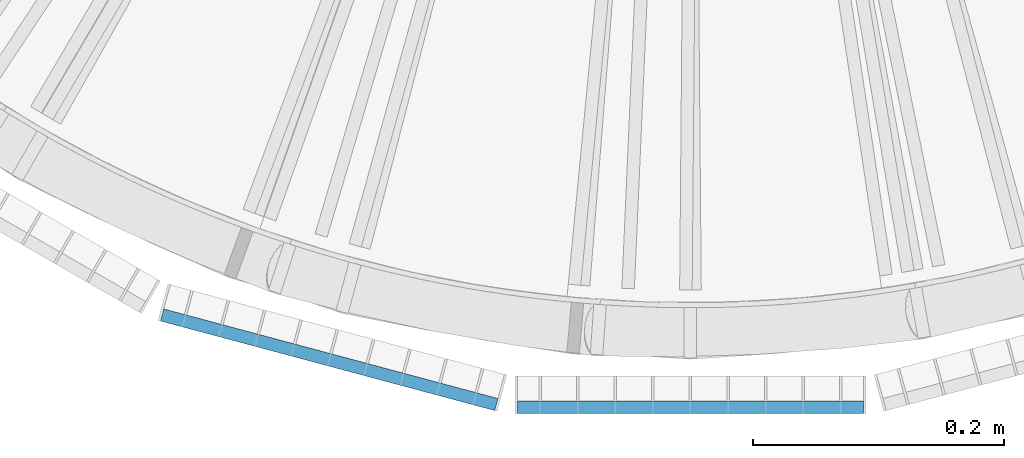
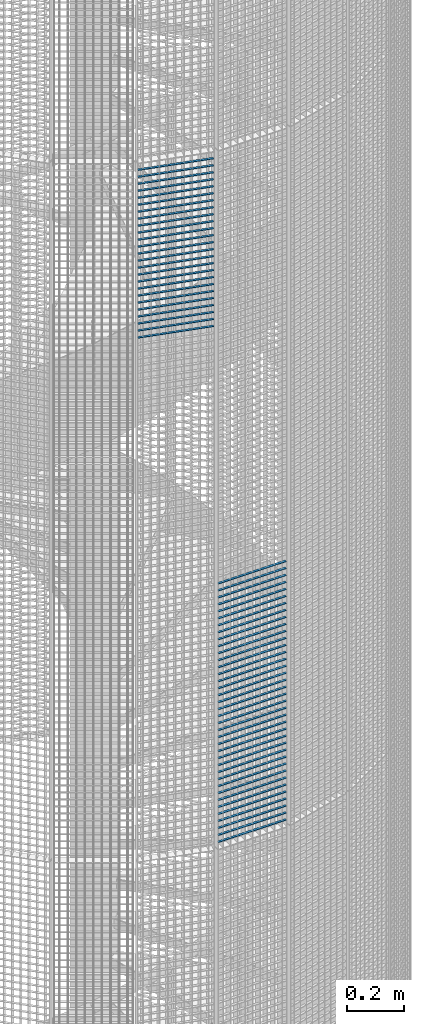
# One storey, part 162 of 1148: 63 beams, 2 elements without a shape of their own.
"""IFC2X3 building model written with IfcOpenShell, lengths in millimetres."""

from ifc_helpers import new_model, si_unit, frame, origin_with_axes, origin_2d_with_axis, place, context, subcontext, project, spatial, rectangle, extrude, material, type_object, element, aggregate, save


model = new_model("IFC2X3")

# Units and contexts
model_context = context("Model", 3, precision=1e-05, world=origin_with_axes())
body_context = subcontext(model_context, "Body", "Model", "MODEL_VIEW")
ifc_project = project(units=[si_unit("LENGTHUNIT", "METRE", prefix="MILLI"), si_unit("AREAUNIT", "SQUARE_METRE"), si_unit("VOLUMEUNIT", "CUBIC_METRE"), si_unit("MASSUNIT", "GRAM", prefix="KILO"), si_unit("TIMEUNIT", "SECOND"), si_unit("PLANEANGLEUNIT", "RADIAN"), si_unit("SOLIDANGLEUNIT", "STERADIAN"), si_unit("THERMODYNAMICTEMPERATUREUNIT", "DEGREE_CELSIUS"), si_unit("LUMINOUSINTENSITYUNIT", "LUMEN")], contexts=[model_context])

# Site, building, storey
site_placement = place(None, origin_with_axes())
site = spatial("IfcSite", under=ifc_project, at=site_placement, Name="Undefined", CompositionType="ELEMENT")
building_placement = place(site_placement, origin_with_axes())
building = spatial("IfcBuilding", under=site, at=building_placement, Name="Undefined", CompositionType="ELEMENT")
storey_placement = place(building_placement, origin_with_axes())
storey = spatial("IfcBuildingStorey", under=building, at=storey_placement, Name="Undefined", CompositionType="ELEMENT", Elevation=0.0)

# Assembly, beams
assembly_1_placement = place(storey_placement, origin_with_axes())
assembly_1 = element("IfcElementAssembly", 1, at=assembly_1_placement, inside=storey, Name="BORDURE", AssemblyPlace="NOTDEFINED", PredefinedType="NOTDEFINED")
ifc_material = material(Name="STEEL/S235JR")
beam_type = type_object("IfcBeamType", Name="PL2*10", PredefinedType="NOTDEFINED")
beam_1_placement = place(assembly_1_placement, frame((-137.996003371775, -1113.47999999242, 4140.0), z_axis=(0.0, -1.0, 0.0), x_axis=(1.0, 0.0, 0.0)))
beam_1 = element("IfcBeam", 2, at=beam_1_placement, type_object=beam_type, material=ifc_material, Name="ENTRETOISE", context=body_context, shape_type="SweptSolid", body=[
    extrude(rectangle(XDim=2.0, YDim=10.0, at=origin_2d_with_axis()), frame((275.999999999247, 9.09494701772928e-13, 1.53210777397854e-14), z_axis=(-1.0, 0.0, 0.0), x_axis=(0.0, -1.0, 0.0)), (0.0, 0.0, 1.0), 276.0),
])
beam_2_placement = place(assembly_1_placement, frame((-137.996003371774, -1113.47999999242, 3720.0), z_axis=(0.0, -1.0, 0.0), x_axis=(1.0, 0.0, 0.0)))
beam_2 = element("IfcBeam", 3, at=beam_2_placement, type_object=beam_type, material=ifc_material, Name="ENTRETOISE", context=body_context, shape_type="SweptSolid", body=[
    extrude(rectangle(XDim=2.0, YDim=10.0, at=origin_2d_with_axis()), frame((275.999999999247, 9.09494701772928e-13, 1.53210777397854e-14), z_axis=(-1.0, 0.0, 0.0), x_axis=(0.0, -1.0, 0.0)), (0.0, 0.0, 1.0), 276.0),
])
beam_3_placement = place(assembly_1_placement, frame((-137.996003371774, -1113.47999999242, 3690.0), z_axis=(0.0, -1.0, 0.0), x_axis=(1.0, 0.0, 0.0)))
beam_3 = element("IfcBeam", 4, at=beam_3_placement, type_object=beam_type, material=ifc_material, Name="ENTRETOISE", context=body_context, shape_type="SweptSolid", body=[
    extrude(rectangle(XDim=2.0, YDim=10.0, at=origin_2d_with_axis()), frame((275.999999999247, 9.09494701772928e-13, 1.53210777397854e-14), z_axis=(-1.0, 0.0, 0.0), x_axis=(0.0, -1.0, 0.0)), (0.0, 0.0, 1.0), 276.0),
])
beam_4_placement = place(assembly_1_placement, frame((-137.996003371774, -1113.47999999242, 3750.0), z_axis=(0.0, -1.0, 0.0), x_axis=(1.0, 0.0, 0.0)))
beam_4 = element("IfcBeam", 5, at=beam_4_placement, type_object=beam_type, material=ifc_material, Name="ENTRETOISE", context=body_context, shape_type="SweptSolid", body=[
    extrude(rectangle(XDim=2.0, YDim=10.0, at=origin_2d_with_axis()), frame((275.999999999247, 9.09494701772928e-13, 1.53210777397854e-14), z_axis=(-1.0, 0.0, 0.0), x_axis=(0.0, -1.0, 0.0)), (0.0, 0.0, 1.0), 276.0),
])
beam_5_placement = place(assembly_1_placement, frame((-137.996003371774, -1113.47999999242, 3660.0), z_axis=(0.0, -1.0, 0.0), x_axis=(1.0, 0.0, 0.0)))
beam_5 = element("IfcBeam", 6, at=beam_5_placement, type_object=beam_type, material=ifc_material, Name="ENTRETOISE", context=body_context, shape_type="SweptSolid", body=[
    extrude(rectangle(XDim=2.0, YDim=10.0, at=origin_2d_with_axis()), frame((275.999999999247, 9.09494701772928e-13, 1.53210777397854e-14), z_axis=(-1.0, 0.0, 0.0), x_axis=(0.0, -1.0, 0.0)), (0.0, 0.0, 1.0), 276.0),
])
beam_6_placement = place(assembly_1_placement, frame((-137.996003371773, -1113.47999999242, 3630.0), z_axis=(0.0, -1.0, 0.0), x_axis=(1.0, 0.0, 0.0)))
beam_6 = element("IfcBeam", 7, at=beam_6_placement, type_object=beam_type, material=ifc_material, Name="ENTRETOISE", context=body_context, shape_type="SweptSolid", body=[
    extrude(rectangle(XDim=2.0, YDim=10.0, at=origin_2d_with_axis()), frame((275.999999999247, 9.09494701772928e-13, 1.53210777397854e-14), z_axis=(-1.0, 0.0, 0.0), x_axis=(0.0, -1.0, 0.0)), (0.0, 0.0, 1.0), 276.0),
])
beam_7_placement = place(assembly_1_placement, frame((-137.996003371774, -1113.47999999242, 3780.0), z_axis=(0.0, -1.0, 0.0), x_axis=(1.0, 0.0, 0.0)))
beam_7 = element("IfcBeam", 8, at=beam_7_placement, type_object=beam_type, material=ifc_material, Name="ENTRETOISE", context=body_context, shape_type="SweptSolid", body=[
    extrude(rectangle(XDim=2.0, YDim=10.0, at=origin_2d_with_axis()), frame((275.999999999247, 9.09494701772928e-13, 1.53210777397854e-14), z_axis=(-1.0, 0.0, 0.0), x_axis=(0.0, -1.0, 0.0)), (0.0, 0.0, 1.0), 276.0),
])
beam_8_placement = place(assembly_1_placement, frame((-137.996003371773, -1113.47999999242, 3600.0), z_axis=(0.0, -1.0, 0.0), x_axis=(1.0, 0.0, 0.0)))
beam_8 = element("IfcBeam", 9, at=beam_8_placement, type_object=beam_type, material=ifc_material, Name="ENTRETOISE", context=body_context, shape_type="SweptSolid", body=[
    extrude(rectangle(XDim=2.0, YDim=10.0, at=origin_2d_with_axis()), frame((275.999999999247, 9.09494701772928e-13, 1.53210777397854e-14), z_axis=(-1.0, 0.0, 0.0), x_axis=(0.0, -1.0, 0.0)), (0.0, 0.0, 1.0), 276.0),
])
beam_9_placement = place(assembly_1_placement, frame((-137.996003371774, -1113.47999999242, 3810.0), z_axis=(0.0, -1.0, 0.0), x_axis=(1.0, 0.0, 0.0)))
beam_9 = element("IfcBeam", 10, at=beam_9_placement, type_object=beam_type, material=ifc_material, Name="ENTRETOISE", context=body_context, shape_type="SweptSolid", body=[
    extrude(rectangle(XDim=2.0, YDim=10.0, at=origin_2d_with_axis()), frame((275.999999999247, 9.09494701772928e-13, 1.53210777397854e-14), z_axis=(-1.0, 0.0, 0.0), x_axis=(0.0, -1.0, 0.0)), (0.0, 0.0, 1.0), 276.0),
])
beam_10_placement = place(assembly_1_placement, frame((-137.996003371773, -1113.47999999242, 3570.0), z_axis=(0.0, -1.0, 0.0), x_axis=(1.0, 0.0, 0.0)))
beam_10 = element("IfcBeam", 11, at=beam_10_placement, type_object=beam_type, material=ifc_material, Name="ENTRETOISE", context=body_context, shape_type="SweptSolid", body=[
    extrude(rectangle(XDim=2.0, YDim=10.0, at=origin_2d_with_axis()), frame((275.999999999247, 9.09494701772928e-13, 1.53210777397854e-14), z_axis=(-1.0, 0.0, 0.0), x_axis=(0.0, -1.0, 0.0)), (0.0, 0.0, 1.0), 276.0),
])
beam_11_placement = place(assembly_1_placement, frame((-137.996003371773, -1113.47999999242, 3540.0), z_axis=(0.0, -1.0, 0.0), x_axis=(1.0, 0.0, 0.0)))
beam_11 = element("IfcBeam", 12, at=beam_11_placement, type_object=beam_type, material=ifc_material, Name="ENTRETOISE", context=body_context, shape_type="SweptSolid", body=[
    extrude(rectangle(XDim=2.0, YDim=10.0, at=origin_2d_with_axis()), frame((275.999999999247, 9.09494701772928e-13, 1.53210777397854e-14), z_axis=(-1.0, 0.0, 0.0), x_axis=(0.0, -1.0, 0.0)), (0.0, 0.0, 1.0), 276.0),
])
beam_12_placement = place(assembly_1_placement, frame((-137.996003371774, -1113.47999999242, 3840.0), z_axis=(0.0, -1.0, 0.0), x_axis=(1.0, 0.0, 0.0)))
beam_12 = element("IfcBeam", 13, at=beam_12_placement, type_object=beam_type, material=ifc_material, Name="ENTRETOISE", context=body_context, shape_type="SweptSolid", body=[
    extrude(rectangle(XDim=2.0, YDim=10.0, at=origin_2d_with_axis()), frame((275.999999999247, 9.09494701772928e-13, 1.53210777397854e-14), z_axis=(-1.0, 0.0, 0.0), x_axis=(0.0, -1.0, 0.0)), (0.0, 0.0, 1.0), 276.0),
])
beam_13_placement = place(assembly_1_placement, frame((-137.996003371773, -1113.47999999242, 3510.0), z_axis=(0.0, -1.0, 0.0), x_axis=(1.0, 0.0, 0.0)))
beam_13 = element("IfcBeam", 14, at=beam_13_placement, type_object=beam_type, material=ifc_material, Name="ENTRETOISE", context=body_context, shape_type="SweptSolid", body=[
    extrude(rectangle(XDim=2.0, YDim=10.0, at=origin_2d_with_axis()), frame((275.999999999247, 9.09494701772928e-13, 1.53210777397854e-14), z_axis=(-1.0, 0.0, 0.0), x_axis=(0.0, -1.0, 0.0)), (0.0, 0.0, 1.0), 276.0),
])
beam_14_placement = place(assembly_1_placement, frame((-137.996003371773, -1113.47999999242, 3480.0), z_axis=(0.0, -1.0, 0.0), x_axis=(1.0, 0.0, 0.0)))
beam_14 = element("IfcBeam", 15, at=beam_14_placement, type_object=beam_type, material=ifc_material, Name="ENTRETOISE", context=body_context, shape_type="SweptSolid", body=[
    extrude(rectangle(XDim=2.0, YDim=10.0, at=origin_2d_with_axis()), frame((275.999999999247, 9.09494701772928e-13, 1.53210777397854e-14), z_axis=(-1.0, 0.0, 0.0), x_axis=(0.0, -1.0, 0.0)), (0.0, 0.0, 1.0), 276.0),
])
beam_15_placement = place(assembly_1_placement, frame((-137.996003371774, -1113.47999999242, 3870.0), z_axis=(0.0, -1.0, 0.0), x_axis=(1.0, 0.0, 0.0)))
beam_15 = element("IfcBeam", 16, at=beam_15_placement, type_object=beam_type, material=ifc_material, Name="ENTRETOISE", context=body_context, shape_type="SweptSolid", body=[
    extrude(rectangle(XDim=2.0, YDim=10.0, at=origin_2d_with_axis()), frame((275.999999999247, 9.09494701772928e-13, 1.53210777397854e-14), z_axis=(-1.0, 0.0, 0.0), x_axis=(0.0, -1.0, 0.0)), (0.0, 0.0, 1.0), 276.0),
])
beam_16_placement = place(assembly_1_placement, frame((-137.996003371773, -1113.47999999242, 3450.0), z_axis=(0.0, -1.0, 0.0), x_axis=(1.0, 0.0, 0.0)))
beam_16 = element("IfcBeam", 17, at=beam_16_placement, type_object=beam_type, material=ifc_material, Name="ENTRETOISE", context=body_context, shape_type="SweptSolid", body=[
    extrude(rectangle(XDim=2.0, YDim=10.0, at=origin_2d_with_axis()), frame((275.999999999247, 9.09494701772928e-13, 1.53210777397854e-14), z_axis=(-1.0, 0.0, 0.0), x_axis=(0.0, -1.0, 0.0)), (0.0, 0.0, 1.0), 276.0),
])
beam_17_placement = place(assembly_1_placement, frame((-137.996003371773, -1113.47999999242, 3420.0), z_axis=(0.0, -1.0, 0.0), x_axis=(1.0, 0.0, 0.0)))
beam_17 = element("IfcBeam", 18, at=beam_17_placement, type_object=beam_type, material=ifc_material, Name="ENTRETOISE", context=body_context, shape_type="SweptSolid", body=[
    extrude(rectangle(XDim=2.0, YDim=10.0, at=origin_2d_with_axis()), frame((275.999999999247, 9.09494701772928e-13, 1.53210777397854e-14), z_axis=(-1.0, 0.0, 0.0), x_axis=(0.0, -1.0, 0.0)), (0.0, 0.0, 1.0), 276.0),
])
beam_18_placement = place(assembly_1_placement, frame((-137.996003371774, -1113.47999999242, 3900.0), z_axis=(0.0, -1.0, 0.0), x_axis=(1.0, 0.0, 0.0)))
beam_18 = element("IfcBeam", 19, at=beam_18_placement, type_object=beam_type, material=ifc_material, Name="ENTRETOISE", context=body_context, shape_type="SweptSolid", body=[
    extrude(rectangle(XDim=2.0, YDim=10.0, at=origin_2d_with_axis()), frame((275.999999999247, 9.09494701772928e-13, 1.53210777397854e-14), z_axis=(-1.0, 0.0, 0.0), x_axis=(0.0, -1.0, 0.0)), (0.0, 0.0, 1.0), 276.0),
])
beam_19_placement = place(assembly_1_placement, frame((-137.996003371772, -1113.47999999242, 3390.0), z_axis=(0.0, -1.0, 0.0), x_axis=(1.0, 0.0, 0.0)))
beam_19 = element("IfcBeam", 20, at=beam_19_placement, type_object=beam_type, material=ifc_material, Name="ENTRETOISE", context=body_context, shape_type="SweptSolid", body=[
    extrude(rectangle(XDim=2.0, YDim=10.0, at=origin_2d_with_axis()), frame((275.999999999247, 9.09494701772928e-13, 1.53210777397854e-14), z_axis=(-1.0, 0.0, 0.0), x_axis=(0.0, -1.0, 0.0)), (0.0, 0.0, 1.0), 276.0),
])
beam_20_placement = place(assembly_1_placement, frame((-137.996003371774, -1113.47999999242, 3930.0), z_axis=(0.0, -1.0, 0.0), x_axis=(1.0, 0.0, 0.0)))
beam_20 = element("IfcBeam", 21, at=beam_20_placement, type_object=beam_type, material=ifc_material, Name="ENTRETOISE", context=body_context, shape_type="SweptSolid", body=[
    extrude(rectangle(XDim=2.0, YDim=10.0, at=origin_2d_with_axis()), frame((275.999999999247, 9.09494701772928e-13, 1.53210777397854e-14), z_axis=(-1.0, 0.0, 0.0), x_axis=(0.0, -1.0, 0.0)), (0.0, 0.0, 1.0), 276.0),
])
beam_21_placement = place(assembly_1_placement, frame((-137.996003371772, -1113.47999999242, 3360.0), z_axis=(0.0, -1.0, 0.0), x_axis=(1.0, 0.0, 0.0)))
beam_21 = element("IfcBeam", 22, at=beam_21_placement, type_object=beam_type, material=ifc_material, Name="ENTRETOISE", context=body_context, shape_type="SweptSolid", body=[
    extrude(rectangle(XDim=2.0, YDim=10.0, at=origin_2d_with_axis()), frame((275.999999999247, 9.09494701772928e-13, 1.53210777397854e-14), z_axis=(-1.0, 0.0, 0.0), x_axis=(0.0, -1.0, 0.0)), (0.0, 0.0, 1.0), 276.0),
])
beam_22_placement = place(assembly_1_placement, frame((-137.996003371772, -1113.47999999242, 3330.0), z_axis=(0.0, -1.0, 0.0), x_axis=(1.0, 0.0, 0.0)))
beam_22 = element("IfcBeam", 23, at=beam_22_placement, type_object=beam_type, material=ifc_material, Name="ENTRETOISE", context=body_context, shape_type="SweptSolid", body=[
    extrude(rectangle(XDim=2.0, YDim=10.0, at=origin_2d_with_axis()), frame((275.999999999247, 9.09494701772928e-13, 1.53210777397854e-14), z_axis=(-1.0, 0.0, 0.0), x_axis=(0.0, -1.0, 0.0)), (0.0, 0.0, 1.0), 276.0),
])
beam_23_placement = place(assembly_1_placement, frame((-137.996003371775, -1113.47999999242, 3960.0), z_axis=(0.0, -1.0, 0.0), x_axis=(1.0, 0.0, 0.0)))
beam_23 = element("IfcBeam", 24, at=beam_23_placement, type_object=beam_type, material=ifc_material, Name="ENTRETOISE", context=body_context, shape_type="SweptSolid", body=[
    extrude(rectangle(XDim=2.0, YDim=10.0, at=origin_2d_with_axis()), frame((275.999999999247, 9.09494701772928e-13, 1.53210777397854e-14), z_axis=(-1.0, 0.0, 0.0), x_axis=(0.0, -1.0, 0.0)), (0.0, 0.0, 1.0), 276.0),
])
beam_24_placement = place(assembly_1_placement, frame((-137.996003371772, -1113.47999999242, 3300.0), z_axis=(0.0, -1.0, 0.0), x_axis=(1.0, 0.0, 0.0)))
beam_24 = element("IfcBeam", 25, at=beam_24_placement, type_object=beam_type, material=ifc_material, Name="ENTRETOISE", context=body_context, shape_type="SweptSolid", body=[
    extrude(rectangle(XDim=2.0, YDim=10.0, at=origin_2d_with_axis()), frame((275.999999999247, 9.09494701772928e-13, 1.53210777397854e-14), z_axis=(-1.0, 0.0, 0.0), x_axis=(0.0, -1.0, 0.0)), (0.0, 0.0, 1.0), 276.0),
])
beam_25_placement = place(assembly_1_placement, frame((-137.996003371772, -1113.47999999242, 3270.0), z_axis=(0.0, -1.0, 0.0), x_axis=(1.0, 0.0, 0.0)))
beam_25 = element("IfcBeam", 26, at=beam_25_placement, type_object=beam_type, material=ifc_material, Name="ENTRETOISE", context=body_context, shape_type="SweptSolid", body=[
    extrude(rectangle(XDim=2.0, YDim=10.0, at=origin_2d_with_axis()), frame((275.999999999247, 9.09494701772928e-13, 1.53210777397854e-14), z_axis=(-1.0, 0.0, 0.0), x_axis=(0.0, -1.0, 0.0)), (0.0, 0.0, 1.0), 276.0),
])
beam_26_placement = place(assembly_1_placement, frame((-137.996003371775, -1113.47999999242, 3990.0), z_axis=(0.0, -1.0, 0.0), x_axis=(1.0, 0.0, 0.0)))
beam_26 = element("IfcBeam", 27, at=beam_26_placement, type_object=beam_type, material=ifc_material, Name="ENTRETOISE", context=body_context, shape_type="SweptSolid", body=[
    extrude(rectangle(XDim=2.0, YDim=10.0, at=origin_2d_with_axis()), frame((275.999999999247, 9.09494701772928e-13, 1.53210777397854e-14), z_axis=(-1.0, 0.0, 0.0), x_axis=(0.0, -1.0, 0.0)), (0.0, 0.0, 1.0), 276.0),
])
beam_27_placement = place(assembly_1_placement, frame((-137.996003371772, -1113.47999999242, 3240.0), z_axis=(0.0, -1.0, 0.0), x_axis=(1.0, 0.0, 0.0)))
beam_27 = element("IfcBeam", 28, at=beam_27_placement, type_object=beam_type, material=ifc_material, Name="ENTRETOISE", context=body_context, shape_type="SweptSolid", body=[
    extrude(rectangle(XDim=2.0, YDim=10.0, at=origin_2d_with_axis()), frame((275.999999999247, 9.09494701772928e-13, 1.53210777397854e-14), z_axis=(-1.0, 0.0, 0.0), x_axis=(0.0, -1.0, 0.0)), (0.0, 0.0, 1.0), 276.0),
])
beam_28_placement = place(assembly_1_placement, frame((-137.996003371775, -1113.47999999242, 4020.0), z_axis=(0.0, -1.0, 0.0), x_axis=(1.0, 0.0, 0.0)))
beam_28 = element("IfcBeam", 29, at=beam_28_placement, type_object=beam_type, material=ifc_material, Name="ENTRETOISE", context=body_context, shape_type="SweptSolid", body=[
    extrude(rectangle(XDim=2.0, YDim=10.0, at=origin_2d_with_axis()), frame((275.999999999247, 9.09494701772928e-13, 1.53210777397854e-14), z_axis=(-1.0, 0.0, 0.0), x_axis=(0.0, -1.0, 0.0)), (0.0, 0.0, 1.0), 276.0),
])
beam_29_placement = place(assembly_1_placement, frame((-137.996003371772, -1113.47999999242, 3210.0), z_axis=(0.0, -1.0, 0.0), x_axis=(1.0, 0.0, 0.0)))
beam_29 = element("IfcBeam", 30, at=beam_29_placement, type_object=beam_type, material=ifc_material, Name="ENTRETOISE", context=body_context, shape_type="SweptSolid", body=[
    extrude(rectangle(XDim=2.0, YDim=10.0, at=origin_2d_with_axis()), frame((275.999999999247, 9.09494701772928e-13, 1.53210777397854e-14), z_axis=(-1.0, 0.0, 0.0), x_axis=(0.0, -1.0, 0.0)), (0.0, 0.0, 1.0), 276.0),
])
beam_30_placement = place(assembly_1_placement, frame((-137.996003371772, -1113.47999999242, 3180.0), z_axis=(0.0, -1.0, 0.0), x_axis=(1.0, 0.0, 0.0)))
beam_30 = element("IfcBeam", 31, at=beam_30_placement, type_object=beam_type, material=ifc_material, Name="ENTRETOISE", context=body_context, shape_type="SweptSolid", body=[
    extrude(rectangle(XDim=2.0, YDim=10.0, at=origin_2d_with_axis()), frame((275.999999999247, 9.09494701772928e-13, 1.53210777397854e-14), z_axis=(-1.0, 0.0, 0.0), x_axis=(0.0, -1.0, 0.0)), (0.0, 0.0, 1.0), 276.0),
])
beam_31_placement = place(assembly_1_placement, frame((-137.996003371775, -1113.47999999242, 4050.0), z_axis=(0.0, -1.0, 0.0), x_axis=(1.0, 0.0, 0.0)))
beam_31 = element("IfcBeam", 32, at=beam_31_placement, type_object=beam_type, material=ifc_material, Name="ENTRETOISE", context=body_context, shape_type="SweptSolid", body=[
    extrude(rectangle(XDim=2.0, YDim=10.0, at=origin_2d_with_axis()), frame((275.999999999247, 9.09494701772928e-13, 1.53210777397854e-14), z_axis=(-1.0, 0.0, 0.0), x_axis=(0.0, -1.0, 0.0)), (0.0, 0.0, 1.0), 276.0),
])
beam_32_placement = place(assembly_1_placement, frame((-137.996003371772, -1113.47999999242, 3150.0), z_axis=(0.0, -1.0, 0.0), x_axis=(1.0, 0.0, 0.0)))
beam_32 = element("IfcBeam", 33, at=beam_32_placement, type_object=beam_type, material=ifc_material, Name="ENTRETOISE", context=body_context, shape_type="SweptSolid", body=[
    extrude(rectangle(XDim=2.0, YDim=10.0, at=origin_2d_with_axis()), frame((275.999999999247, 9.09494701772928e-13, 1.53210777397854e-14), z_axis=(-1.0, 0.0, 0.0), x_axis=(0.0, -1.0, 0.0)), (0.0, 0.0, 1.0), 276.0),
])
beam_33_placement = place(assembly_1_placement, frame((-137.996003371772, -1113.47999999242, 3120.0), z_axis=(0.0, -1.0, 0.0), x_axis=(1.0, 0.0, 0.0)))
beam_33 = element("IfcBeam", 34, at=beam_33_placement, type_object=beam_type, material=ifc_material, Name="ENTRETOISE", context=body_context, shape_type="SweptSolid", body=[
    extrude(rectangle(XDim=2.0, YDim=10.0, at=origin_2d_with_axis()), frame((275.999999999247, 9.09494701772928e-13, 1.53210777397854e-14), z_axis=(-1.0, 0.0, 0.0), x_axis=(0.0, -1.0, 0.0)), (0.0, 0.0, 1.0), 276.0),
])
beam_34_placement = place(assembly_1_placement, frame((-137.996003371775, -1113.47999999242, 4080.0), z_axis=(0.0, -1.0, 0.0), x_axis=(1.0, 0.0, 0.0)))
beam_34 = element("IfcBeam", 35, at=beam_34_placement, type_object=beam_type, material=ifc_material, Name="ENTRETOISE", context=body_context, shape_type="SweptSolid", body=[
    extrude(rectangle(XDim=2.0, YDim=10.0, at=origin_2d_with_axis()), frame((275.999999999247, 9.09494701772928e-13, 1.53210777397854e-14), z_axis=(-1.0, 0.0, 0.0), x_axis=(0.0, -1.0, 0.0)), (0.0, 0.0, 1.0), 276.0),
])
beam_35_placement = place(assembly_1_placement, frame((-137.996003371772, -1113.47999999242, 3090.0), z_axis=(0.0, -1.0, 0.0), x_axis=(1.0, 0.0, 0.0)))
beam_35 = element("IfcBeam", 36, at=beam_35_placement, type_object=beam_type, material=ifc_material, Name="ENTRETOISE", context=body_context, shape_type="SweptSolid", body=[
    extrude(rectangle(XDim=2.0, YDim=10.0, at=origin_2d_with_axis()), frame((275.999999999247, 9.09494701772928e-13, 1.53210777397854e-14), z_axis=(-1.0, 0.0, 0.0), x_axis=(0.0, -1.0, 0.0)), (0.0, 0.0, 1.0), 276.0),
])
beam_36_placement = place(assembly_1_placement, frame((-137.996003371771, -1113.47999999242, 3060.0), z_axis=(0.0, -1.0, 0.0), x_axis=(1.0, 0.0, 0.0)))
beam_36 = element("IfcBeam", 37, at=beam_36_placement, type_object=beam_type, material=ifc_material, Name="ENTRETOISE", context=body_context, shape_type="SweptSolid", body=[
    extrude(rectangle(XDim=2.0, YDim=10.0, at=origin_2d_with_axis()), frame((275.999999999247, 9.09494701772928e-13, 1.53210777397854e-14), z_axis=(-1.0, 0.0, 0.0), x_axis=(0.0, -1.0, 0.0)), (0.0, 0.0, 1.0), 276.0),
])
beam_37_placement = place(assembly_1_placement, frame((-137.996003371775, -1113.47999999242, 4110.0), z_axis=(0.0, -1.0, 0.0), x_axis=(1.0, 0.0, 0.0)))
beam_37 = element("IfcBeam", 38, at=beam_37_placement, type_object=beam_type, material=ifc_material, Name="ENTRETOISE", context=body_context, shape_type="SweptSolid", body=[
    extrude(rectangle(XDim=2.0, YDim=10.0, at=origin_2d_with_axis()), frame((275.999999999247, 9.09494701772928e-13, 1.53210777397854e-14), z_axis=(-1.0, 0.0, 0.0), x_axis=(0.0, -1.0, 0.0)), (0.0, 0.0, 1.0), 276.0),
])
beam_38_placement = place(assembly_1_placement, frame((-137.99600337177, -1113.47999999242, 3030.0), z_axis=(0.0, -1.0, 0.0), x_axis=(1.0, 0.0, 0.0)))
beam_38 = element("IfcBeam", 39, at=beam_38_placement, type_object=beam_type, material=ifc_material, Name="ENTRETOISE", context=body_context, shape_type="SweptSolid", body=[
    extrude(rectangle(XDim=2.0, YDim=10.0, at=origin_2d_with_axis()), frame((275.999999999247, 9.09494701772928e-13, 1.53210777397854e-14), z_axis=(-1.0, 0.0, 0.0), x_axis=(0.0, -1.0, 0.0)), (0.0, 0.0, 1.0), 276.0),
])
aggregate(assembly_1, [beam_1, beam_2, beam_3, beam_4, beam_5, beam_6, beam_7, beam_8, beam_9, beam_10, beam_11, beam_12, beam_13, beam_14, beam_15, beam_16, beam_17, beam_18, beam_19, beam_20, beam_21, beam_22, beam_23, beam_24, beam_25, beam_26, beam_27, beam_28, beam_29, beam_30, beam_31, beam_32, beam_33, beam_34, beam_35, beam_36, beam_37, beam_38])

assembly_2_placement = place(storey_placement, origin_with_axes())
assembly_2 = element("IfcElementAssembly", 40, at=assembly_2_placement, inside=storey, Name="BORDURE", AssemblyPlace="NOTDEFINED", PredefinedType="NOTDEFINED")
beam_39_placement = place(assembly_2_placement, frame((-421.483733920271, -1039.82309522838, 5970.0), z_axis=(-0.258819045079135, -0.965925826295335, 0.0), x_axis=(0.965925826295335, -0.258819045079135, 0.0)))
beam_39 = element("IfcBeam", 41, at=beam_39_placement, type_object=beam_type, material=ifc_material, Name="ENTRETOISE", context=body_context, shape_type="SweptSolid", body=[
    extrude(rectangle(XDim=2.0, YDim=10.0, at=origin_2d_with_axis()), frame((275.999999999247, 9.09494701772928e-13, 1.53210777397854e-14), z_axis=(-1.0, 0.0, 0.0), x_axis=(0.0, -1.0, 0.0)), (0.0, 0.0, 1.0), 276.0),
])
beam_40_placement = place(assembly_2_placement, frame((-421.483733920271, -1039.82309522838, 5940.0), z_axis=(-0.258819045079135, -0.965925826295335, 0.0), x_axis=(0.965925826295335, -0.258819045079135, 0.0)))
beam_40 = element("IfcBeam", 42, at=beam_40_placement, type_object=beam_type, material=ifc_material, Name="ENTRETOISE", context=body_context, shape_type="SweptSolid", body=[
    extrude(rectangle(XDim=2.0, YDim=10.0, at=origin_2d_with_axis()), frame((275.999999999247, 9.09494701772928e-13, 1.53210777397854e-14), z_axis=(-1.0, 0.0, 0.0), x_axis=(0.0, -1.0, 0.0)), (0.0, 0.0, 1.0), 276.0),
])
beam_41_placement = place(assembly_2_placement, frame((-421.483733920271, -1039.82309522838, 5910.0), z_axis=(-0.258819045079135, -0.965925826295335, 0.0), x_axis=(0.965925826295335, -0.258819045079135, 0.0)))
beam_41 = element("IfcBeam", 43, at=beam_41_placement, type_object=beam_type, material=ifc_material, Name="ENTRETOISE", context=body_context, shape_type="SweptSolid", body=[
    extrude(rectangle(XDim=2.0, YDim=10.0, at=origin_2d_with_axis()), frame((275.999999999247, 9.09494701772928e-13, 1.53210777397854e-14), z_axis=(-1.0, 0.0, 0.0), x_axis=(0.0, -1.0, 0.0)), (0.0, 0.0, 1.0), 276.0),
])
beam_42_placement = place(assembly_2_placement, frame((-421.483733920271, -1039.82309522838, 5880.0), z_axis=(-0.258819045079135, -0.965925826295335, 0.0), x_axis=(0.965925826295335, -0.258819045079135, 0.0)))
beam_42 = element("IfcBeam", 44, at=beam_42_placement, type_object=beam_type, material=ifc_material, Name="ENTRETOISE", context=body_context, shape_type="SweptSolid", body=[
    extrude(rectangle(XDim=2.0, YDim=10.0, at=origin_2d_with_axis()), frame((275.999999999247, 9.09494701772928e-13, 1.53210777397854e-14), z_axis=(-1.0, 0.0, 0.0), x_axis=(0.0, -1.0, 0.0)), (0.0, 0.0, 1.0), 276.0),
])
beam_43_placement = place(assembly_2_placement, frame((-421.483733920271, -1039.82309522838, 5850.0), z_axis=(-0.258819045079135, -0.965925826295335, 0.0), x_axis=(0.965925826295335, -0.258819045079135, 0.0)))
beam_43 = element("IfcBeam", 45, at=beam_43_placement, type_object=beam_type, material=ifc_material, Name="ENTRETOISE", context=body_context, shape_type="SweptSolid", body=[
    extrude(rectangle(XDim=2.0, YDim=10.0, at=origin_2d_with_axis()), frame((275.999999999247, 9.09494701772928e-13, 1.53210777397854e-14), z_axis=(-1.0, 0.0, 0.0), x_axis=(0.0, -1.0, 0.0)), (0.0, 0.0, 1.0), 276.0),
])
beam_44_placement = place(assembly_2_placement, frame((-421.483733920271, -1039.82309522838, 5820.0), z_axis=(-0.258819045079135, -0.965925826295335, 0.0), x_axis=(0.965925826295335, -0.258819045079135, 0.0)))
beam_44 = element("IfcBeam", 46, at=beam_44_placement, type_object=beam_type, material=ifc_material, Name="ENTRETOISE", context=body_context, shape_type="SweptSolid", body=[
    extrude(rectangle(XDim=2.0, YDim=10.0, at=origin_2d_with_axis()), frame((275.999999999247, 9.09494701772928e-13, 1.53210777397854e-14), z_axis=(-1.0, 0.0, 0.0), x_axis=(0.0, -1.0, 0.0)), (0.0, 0.0, 1.0), 276.0),
])
beam_45_placement = place(assembly_2_placement, frame((-421.483733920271, -1039.82309522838, 5790.0), z_axis=(-0.258819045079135, -0.965925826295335, 0.0), x_axis=(0.965925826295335, -0.258819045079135, 0.0)))
beam_45 = element("IfcBeam", 47, at=beam_45_placement, type_object=beam_type, material=ifc_material, Name="ENTRETOISE", context=body_context, shape_type="SweptSolid", body=[
    extrude(rectangle(XDim=2.0, YDim=10.0, at=origin_2d_with_axis()), frame((275.999999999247, 9.09494701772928e-13, 1.53210777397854e-14), z_axis=(-1.0, 0.0, 0.0), x_axis=(0.0, -1.0, 0.0)), (0.0, 0.0, 1.0), 276.0),
])
beam_46_placement = place(assembly_2_placement, frame((-421.483733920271, -1039.82309522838, 5760.0), z_axis=(-0.258819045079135, -0.965925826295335, 0.0), x_axis=(0.965925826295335, -0.258819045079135, 0.0)))
beam_46 = element("IfcBeam", 48, at=beam_46_placement, type_object=beam_type, material=ifc_material, Name="ENTRETOISE", context=body_context, shape_type="SweptSolid", body=[
    extrude(rectangle(XDim=2.0, YDim=10.0, at=origin_2d_with_axis()), frame((275.999999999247, 9.09494701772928e-13, 1.53210777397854e-14), z_axis=(-1.0, 0.0, 0.0), x_axis=(0.0, -1.0, 0.0)), (0.0, 0.0, 1.0), 276.0),
])
beam_47_placement = place(assembly_2_placement, frame((-421.483733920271, -1039.82309522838, 5730.0), z_axis=(-0.258819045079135, -0.965925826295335, 0.0), x_axis=(0.965925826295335, -0.258819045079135, 0.0)))
beam_47 = element("IfcBeam", 49, at=beam_47_placement, type_object=beam_type, material=ifc_material, Name="ENTRETOISE", context=body_context, shape_type="SweptSolid", body=[
    extrude(rectangle(XDim=2.0, YDim=10.0, at=origin_2d_with_axis()), frame((275.999999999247, 9.09494701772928e-13, 1.53210777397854e-14), z_axis=(-1.0, 0.0, 0.0), x_axis=(0.0, -1.0, 0.0)), (0.0, 0.0, 1.0), 276.0),
])
beam_48_placement = place(assembly_2_placement, frame((-421.48373392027, -1039.82309522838, 5700.0), z_axis=(-0.258819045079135, -0.965925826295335, 0.0), x_axis=(0.965925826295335, -0.258819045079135, 0.0)))
beam_48 = element("IfcBeam", 50, at=beam_48_placement, type_object=beam_type, material=ifc_material, Name="ENTRETOISE", context=body_context, shape_type="SweptSolid", body=[
    extrude(rectangle(XDim=2.0, YDim=10.0, at=origin_2d_with_axis()), frame((275.999999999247, 9.09494701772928e-13, 1.53210777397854e-14), z_axis=(-1.0, 0.0, 0.0), x_axis=(0.0, -1.0, 0.0)), (0.0, 0.0, 1.0), 276.0),
])
beam_49_placement = place(assembly_2_placement, frame((-421.48373392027, -1039.82309522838, 5670.0), z_axis=(-0.258819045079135, -0.965925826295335, 0.0), x_axis=(0.965925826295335, -0.258819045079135, 0.0)))
beam_49 = element("IfcBeam", 51, at=beam_49_placement, type_object=beam_type, material=ifc_material, Name="ENTRETOISE", context=body_context, shape_type="SweptSolid", body=[
    extrude(rectangle(XDim=2.0, YDim=10.0, at=origin_2d_with_axis()), frame((275.999999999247, 9.09494701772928e-13, 1.53210777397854e-14), z_axis=(-1.0, 0.0, 0.0), x_axis=(0.0, -1.0, 0.0)), (0.0, 0.0, 1.0), 276.0),
])
beam_50_placement = place(assembly_2_placement, frame((-421.48373392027, -1039.82309522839, 5640.0), z_axis=(-0.258819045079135, -0.965925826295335, 0.0), x_axis=(0.965925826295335, -0.258819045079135, 0.0)))
beam_50 = element("IfcBeam", 52, at=beam_50_placement, type_object=beam_type, material=ifc_material, Name="ENTRETOISE", context=body_context, shape_type="SweptSolid", body=[
    extrude(rectangle(XDim=2.0, YDim=10.0, at=origin_2d_with_axis()), frame((275.999999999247, 9.09494701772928e-13, 1.53210777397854e-14), z_axis=(-1.0, 0.0, 0.0), x_axis=(0.0, -1.0, 0.0)), (0.0, 0.0, 1.0), 276.0),
])
beam_51_placement = place(assembly_2_placement, frame((-421.48373392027, -1039.82309522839, 5610.0), z_axis=(-0.258819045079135, -0.965925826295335, 0.0), x_axis=(0.965925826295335, -0.258819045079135, 0.0)))
beam_51 = element("IfcBeam", 53, at=beam_51_placement, type_object=beam_type, material=ifc_material, Name="ENTRETOISE", context=body_context, shape_type="SweptSolid", body=[
    extrude(rectangle(XDim=2.0, YDim=10.0, at=origin_2d_with_axis()), frame((275.999999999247, 9.09494701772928e-13, 1.53210777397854e-14), z_axis=(-1.0, 0.0, 0.0), x_axis=(0.0, -1.0, 0.0)), (0.0, 0.0, 1.0), 276.0),
])
beam_52_placement = place(assembly_2_placement, frame((-421.48373392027, -1039.82309522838, 5580.0), z_axis=(-0.258819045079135, -0.965925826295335, 0.0), x_axis=(0.965925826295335, -0.258819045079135, 0.0)))
beam_52 = element("IfcBeam", 54, at=beam_52_placement, type_object=beam_type, material=ifc_material, Name="ENTRETOISE", context=body_context, shape_type="SweptSolid", body=[
    extrude(rectangle(XDim=2.0, YDim=10.0, at=origin_2d_with_axis()), frame((275.999999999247, 9.09494701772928e-13, 1.53210777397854e-14), z_axis=(-1.0, 0.0, 0.0), x_axis=(0.0, -1.0, 0.0)), (0.0, 0.0, 1.0), 276.0),
])
beam_53_placement = place(assembly_2_placement, frame((-421.48373392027, -1039.82309522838, 5550.0), z_axis=(-0.258819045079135, -0.965925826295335, 0.0), x_axis=(0.965925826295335, -0.258819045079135, 0.0)))
beam_53 = element("IfcBeam", 55, at=beam_53_placement, type_object=beam_type, material=ifc_material, Name="ENTRETOISE", context=body_context, shape_type="SweptSolid", body=[
    extrude(rectangle(XDim=2.0, YDim=10.0, at=origin_2d_with_axis()), frame((275.999999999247, 9.09494701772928e-13, 1.53210777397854e-14), z_axis=(-1.0, 0.0, 0.0), x_axis=(0.0, -1.0, 0.0)), (0.0, 0.0, 1.0), 276.0),
])
beam_54_placement = place(assembly_2_placement, frame((-421.48373392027, -1039.82309522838, 5520.0), z_axis=(-0.258819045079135, -0.965925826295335, 0.0), x_axis=(0.965925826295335, -0.258819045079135, 0.0)))
beam_54 = element("IfcBeam", 56, at=beam_54_placement, type_object=beam_type, material=ifc_material, Name="ENTRETOISE", context=body_context, shape_type="SweptSolid", body=[
    extrude(rectangle(XDim=2.0, YDim=10.0, at=origin_2d_with_axis()), frame((275.999999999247, 9.09494701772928e-13, 1.53210777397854e-14), z_axis=(-1.0, 0.0, 0.0), x_axis=(0.0, -1.0, 0.0)), (0.0, 0.0, 1.0), 276.0),
])
beam_55_placement = place(assembly_2_placement, frame((-421.48373392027, -1039.82309522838, 5490.0), z_axis=(-0.258819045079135, -0.965925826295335, 0.0), x_axis=(0.965925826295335, -0.258819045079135, 0.0)))
beam_55 = element("IfcBeam", 57, at=beam_55_placement, type_object=beam_type, material=ifc_material, Name="ENTRETOISE", context=body_context, shape_type="SweptSolid", body=[
    extrude(rectangle(XDim=2.0, YDim=10.0, at=origin_2d_with_axis()), frame((275.999999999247, 9.09494701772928e-13, 1.53210777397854e-14), z_axis=(-1.0, 0.0, 0.0), x_axis=(0.0, -1.0, 0.0)), (0.0, 0.0, 1.0), 276.0),
])
beam_56_placement = place(assembly_2_placement, frame((-421.48373392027, -1039.82309522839, 5460.0), z_axis=(-0.258819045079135, -0.965925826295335, 0.0), x_axis=(0.965925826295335, -0.258819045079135, 0.0)))
beam_56 = element("IfcBeam", 58, at=beam_56_placement, type_object=beam_type, material=ifc_material, Name="ENTRETOISE", context=body_context, shape_type="SweptSolid", body=[
    extrude(rectangle(XDim=2.0, YDim=10.0, at=origin_2d_with_axis()), frame((275.999999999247, 9.09494701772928e-13, 1.53210777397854e-14), z_axis=(-1.0, 0.0, 0.0), x_axis=(0.0, -1.0, 0.0)), (0.0, 0.0, 1.0), 276.0),
])
beam_57_placement = place(assembly_2_placement, frame((-421.48373392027, -1039.82309522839, 5430.0), z_axis=(-0.258819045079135, -0.965925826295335, 0.0), x_axis=(0.965925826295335, -0.258819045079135, 0.0)))
beam_57 = element("IfcBeam", 59, at=beam_57_placement, type_object=beam_type, material=ifc_material, Name="ENTRETOISE", context=body_context, shape_type="SweptSolid", body=[
    extrude(rectangle(XDim=2.0, YDim=10.0, at=origin_2d_with_axis()), frame((275.999999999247, 9.09494701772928e-13, 1.53210777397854e-14), z_axis=(-1.0, 0.0, 0.0), x_axis=(0.0, -1.0, 0.0)), (0.0, 0.0, 1.0), 276.0),
])
beam_58_placement = place(assembly_2_placement, frame((-421.483733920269, -1039.82309522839, 5400.0), z_axis=(-0.258819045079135, -0.965925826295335, 0.0), x_axis=(0.965925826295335, -0.258819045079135, 0.0)))
beam_58 = element("IfcBeam", 60, at=beam_58_placement, type_object=beam_type, material=ifc_material, Name="ENTRETOISE", context=body_context, shape_type="SweptSolid", body=[
    extrude(rectangle(XDim=2.0, YDim=10.0, at=origin_2d_with_axis()), frame((275.999999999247, 9.09494701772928e-13, 1.53210777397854e-14), z_axis=(-1.0, 0.0, 0.0), x_axis=(0.0, -1.0, 0.0)), (0.0, 0.0, 1.0), 276.0),
])
beam_59_placement = place(assembly_2_placement, frame((-421.483733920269, -1039.82309522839, 5370.0), z_axis=(-0.258819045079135, -0.965925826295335, 0.0), x_axis=(0.965925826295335, -0.258819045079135, 0.0)))
beam_59 = element("IfcBeam", 61, at=beam_59_placement, type_object=beam_type, material=ifc_material, Name="ENTRETOISE", context=body_context, shape_type="SweptSolid", body=[
    extrude(rectangle(XDim=2.0, YDim=10.0, at=origin_2d_with_axis()), frame((275.999999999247, 9.09494701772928e-13, 1.53210777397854e-14), z_axis=(-1.0, 0.0, 0.0), x_axis=(0.0, -1.0, 0.0)), (0.0, 0.0, 1.0), 276.0),
])
beam_60_placement = place(assembly_2_placement, frame((-421.483733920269, -1039.82309522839, 5340.0), z_axis=(-0.258819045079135, -0.965925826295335, 0.0), x_axis=(0.965925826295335, -0.258819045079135, 0.0)))
beam_60 = element("IfcBeam", 62, at=beam_60_placement, type_object=beam_type, material=ifc_material, Name="ENTRETOISE", context=body_context, shape_type="SweptSolid", body=[
    extrude(rectangle(XDim=2.0, YDim=10.0, at=origin_2d_with_axis()), frame((275.999999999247, 9.09494701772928e-13, 1.53210777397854e-14), z_axis=(-1.0, 0.0, 0.0), x_axis=(0.0, -1.0, 0.0)), (0.0, 0.0, 1.0), 276.0),
])
beam_61_placement = place(assembly_2_placement, frame((-421.483733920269, -1039.82309522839, 5310.0), z_axis=(-0.258819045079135, -0.965925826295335, 0.0), x_axis=(0.965925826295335, -0.258819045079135, 0.0)))
beam_61 = element("IfcBeam", 63, at=beam_61_placement, type_object=beam_type, material=ifc_material, Name="ENTRETOISE", context=body_context, shape_type="SweptSolid", body=[
    extrude(rectangle(XDim=2.0, YDim=10.0, at=origin_2d_with_axis()), frame((275.999999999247, 9.09494701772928e-13, 1.53210777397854e-14), z_axis=(-1.0, 0.0, 0.0), x_axis=(0.0, -1.0, 0.0)), (0.0, 0.0, 1.0), 276.0),
])
beam_62_placement = place(assembly_2_placement, frame((-421.483733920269, -1039.82309522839, 5280.0), z_axis=(-0.258819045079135, -0.965925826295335, 0.0), x_axis=(0.965925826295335, -0.258819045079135, 0.0)))
beam_62 = element("IfcBeam", 64, at=beam_62_placement, type_object=beam_type, material=ifc_material, Name="ENTRETOISE", context=body_context, shape_type="SweptSolid", body=[
    extrude(rectangle(XDim=2.0, YDim=10.0, at=origin_2d_with_axis()), frame((275.999999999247, 9.09494701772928e-13, 1.53210777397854e-14), z_axis=(-1.0, 0.0, 0.0), x_axis=(0.0, -1.0, 0.0)), (0.0, 0.0, 1.0), 276.0),
])
beam_63_placement = place(assembly_2_placement, frame((-421.483733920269, -1039.82309522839, 5250.0), z_axis=(-0.258819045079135, -0.965925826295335, 0.0), x_axis=(0.965925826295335, -0.258819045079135, 0.0)))
beam_63 = element("IfcBeam", 65, at=beam_63_placement, type_object=beam_type, material=ifc_material, Name="ENTRETOISE", context=body_context, shape_type="SweptSolid", body=[
    extrude(rectangle(XDim=2.0, YDim=10.0, at=origin_2d_with_axis()), frame((275.999999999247, 9.09494701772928e-13, 1.53210777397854e-14), z_axis=(-1.0, 0.0, 0.0), x_axis=(0.0, -1.0, 0.0)), (0.0, 0.0, 1.0), 276.0),
])
aggregate(assembly_2, [beam_39, beam_40, beam_41, beam_42, beam_43, beam_44, beam_45, beam_46, beam_47, beam_48, beam_49, beam_50, beam_51, beam_52, beam_53, beam_54, beam_55, beam_56, beam_57, beam_58, beam_59, beam_60, beam_61, beam_62, beam_63])

save(model, "model.ifc")
